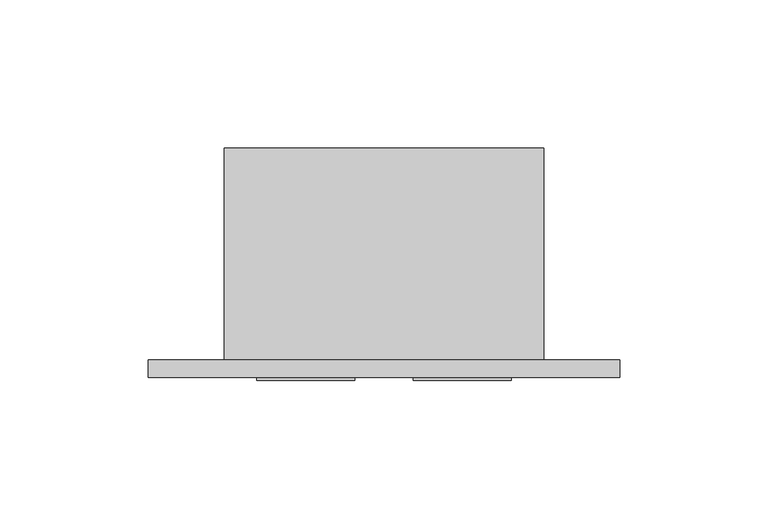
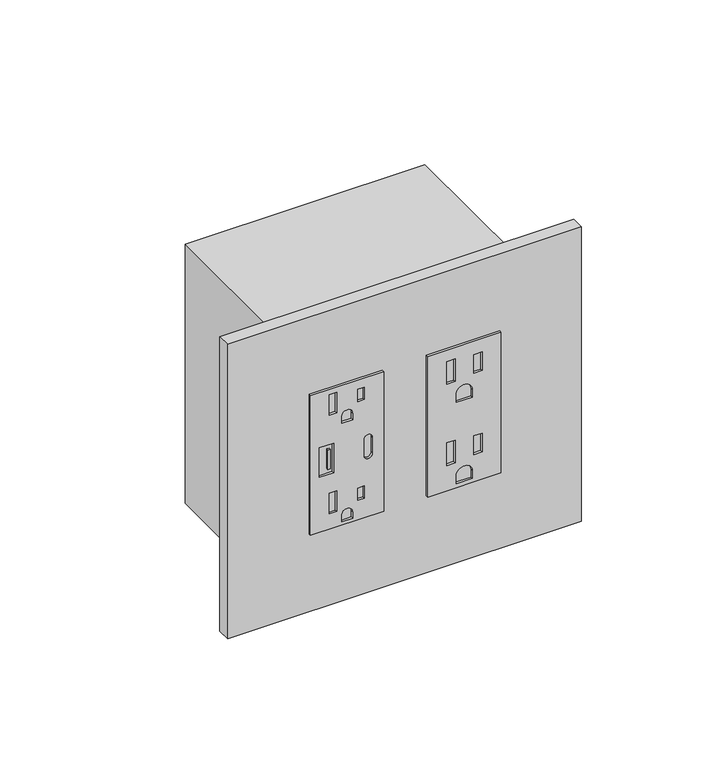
"""IFC4 building model written with IfcOpenShell, lengths in millimetres: proxy geometry, Electrical-Teknion-EPDMD_Vertical_Power_Data_Double-R2019 : PD Vertical Module - Double 15 Amp USB (A+C) & 15 Amp Standard."""

from ifc_helpers import new_model, si_unit, point, frame, frame_2d, origin, place, context, project, spatial, polyline, circle_curve, trimmed, segment, composite_curve, outline, extrude, source, transform, mapped, element, save


def electrical_fixtures_94c24c1b(model_context):
    return source(origin(), model_context, "Body", "SweptSolid", [
        extrude(outline(polyline([(490.5876229, 96.9264), (490.5876229, 63.9318), (423.6332229, 63.9318), (423.6332229, 96.9264), (490.5876229, 96.9264)]), holes=[polyline([(485.2028229, 76.2762), (474.3824229, 76.2762), (474.3824229, 72.4408), (485.2028229, 72.4408), (485.2028229, 76.2762)]), polyline([(484.2249229, 88.4428), (475.3603229, 88.4428), (475.3603229, 84.6074), (484.2249229, 84.6074), (484.2249229, 88.4428)]), composite_curve([segment(polyline([(464.1970229, 76.7969), (467.8292229, 76.7969)]), True, "CONTINUOUS"), segment(trimmed(circle_curve(frame_2d((467.8292229, 80.4291)), 3.6322), [point((467.8292229, 76.7969))], [point((467.8292229, 84.0613))], True, "CARTESIAN"), True, "CONTINUOUS"), segment(polyline([(467.8292229, 84.0613), (464.1970229, 84.0613), (464.1970229, 76.7969)]), True, "CONTINUOUS")], self_intersect=False), polyline([(446.4678229, 76.2762), (435.6474229, 76.2762), (435.6474229, 72.4408), (446.4678229, 72.4408), (446.4678229, 76.2762)]), polyline([(445.4899229, 88.4428), (436.6253229, 88.4428), (436.6253229, 84.6074), (445.4899229, 84.6074), (445.4899229, 88.4428)]), composite_curve([segment(polyline([(429.0942229, 84.0613), (425.4620229, 84.0613), (425.4620229, 76.7969), (429.0942229, 76.7969)]), True, "CONTINUOUS"), segment(trimmed(circle_curve(frame_2d((429.0942229, 80.4291)), 3.6322), [point((429.0942229, 76.7969))], [point((429.0942229, 84.0613))], True, "CARTESIAN"), True, "CONTINUOUS")], self_intersect=False)]), frame((0.0, -6.9294746, 0.0), z_axis=(0.0, 1.0, 0.0), x_axis=(0.0, 0.0, 1.0)), (0.0, 0.0, 1.0), 1.0366746),
        extrude(outline(polyline([(490.3844229, 44.0944), (490.3844229, 11.0998), (423.8364229, 11.0998), (423.8364229, 44.0944), (490.3844229, 44.0944)]), holes=[polyline([(487.9460229, 22.9616), (478.1184878, 22.9616), (478.1184878, 19.6342), (487.9460229, 19.6342), (487.9460229, 22.9616)]), polyline([(485.9405554, 35.41014), (480.1239554, 35.41014), (480.1239554, 32.4358), (485.9405554, 32.4358), (485.9405554, 35.41014)]), composite_curve([segment(polyline([(472.3504229, 30.0609), (472.3504229, 25.1333), (475.4492229, 25.1333)]), True, "CONTINUOUS"), segment(trimmed(circle_curve(frame_2d((475.4492229, 27.5971)), 2.4638), [point((475.4492229, 25.1333))], [point((475.4492229, 30.0609))], True, "CARTESIAN"), True, "CONTINUOUS"), segment(polyline([(475.4492229, 30.0609), (472.3504229, 30.0609)]), True, "CONTINUOUS")], self_intersect=False), polyline([(440.9560229, 22.9616), (431.1284878, 22.9616), (431.1284878, 19.6342), (440.9560229, 19.6342), (440.9560229, 22.9616)]), polyline([(438.9505554, 35.41014), (433.1339554, 35.41014), (433.1339554, 32.4358), (438.9505554, 32.4358), (438.9505554, 35.41014)]), composite_curve([segment(polyline([(425.3604229, 30.0609), (425.3604229, 25.1333), (428.4592229, 25.1333)]), True, "CONTINUOUS"), segment(trimmed(circle_curve(frame_2d((428.4592229, 27.5971)), 2.4638), [point((428.4592229, 25.1333))], [point((428.4592229, 30.0609))], True, "CARTESIAN"), True, "CONTINUOUS"), segment(polyline([(428.4592229, 30.0609), (425.3604229, 30.0609)]), True, "CONTINUOUS")], self_intersect=False), polyline([(464.1589229, 21.59), (450.0619229, 21.59), (450.0619229, 15.0876), (464.1589229, 15.0876), (464.1589229, 21.59)]), composite_curve([segment(trimmed(circle_curve(frame_2d((453.3258229, 37.1348)), 1.905), [point((453.3258229, 39.0398))], [point((453.3258229, 35.2298))], True, "CARTESIAN"), True, "CONTINUOUS"), segment(polyline([(453.3258229, 35.2298), (460.8950229, 35.2298)]), True, "CONTINUOUS"), segment(trimmed(circle_curve(frame_2d((460.8950229, 37.1348)), 1.905), [point((460.8950229, 35.2298))], [point((460.8950229, 39.0398))], True, "CARTESIAN"), True, "CONTINUOUS"), segment(polyline([(460.8950229, 39.0398), (453.3258229, 39.0398)]), True, "CONTINUOUS")], self_intersect=False)]), frame((0.0, -6.9294746, 0.0), z_axis=(0.0, 1.0, 0.0), x_axis=(0.0, 0.0, 1.0)), (0.0, 0.0, 1.0), 1.0366746),
        extrude(outline(polyline([(20.0803959, -6.9294746), (18.9613268, -6.9294746), (18.9613268, -5.8928), (20.0803959, -5.8928), (20.0803959, -6.9294746)])), frame((0.0, 0.0, 452.4102391), z_axis=(0.0, 0.0, 1.0), x_axis=(1.0, 0.0, 0.0)), (0.0, 0.0, 1.0), 9.2470447),
        extrude(outline(polyline([(-25.6794, 0.0), (133.7056, 0.0), (133.7056, -5.8928), (-25.6794, -5.8928), (-25.6794, 0.0)])), frame((0.0, 0.0, 386.9302229), z_axis=(0.0, 0.0, 1.0), x_axis=(1.0, 0.0, 0.0)), (0.0, 0.0, 1.0), 140.3604),
        extrude(outline(polyline([(108.0262, 0.0), (0.0, 0.0), (0.0, 71.7296), (108.0262, 71.7296), (108.0262, 0.0)])), frame((0.0, 0.0, 395.3630229), z_axis=(0.0, 0.0, 1.0), x_axis=(1.0, 0.0, 0.0)), (0.0, 0.0, 1.0), 123.4948),
    ])


if __name__ == "__main__":
    model = new_model("IFC4")
    model_context = context("Model", 3, world=origin())
    ifc_project = project(units=[si_unit("LENGTHUNIT", "METRE", prefix="MILLI")], contexts=[model_context])
    site = spatial("IfcSite", under=ifc_project)
    building = spatial("IfcBuilding", under=site)
    placement = place(None, origin())
    electrical_fixtures_shape = electrical_fixtures_94c24c1b(model_context)
    element("IfcBuildingElementProxy", 1, Name="Electrical-Teknion-EPDMD_Vertical_Power_Data_Double-R2019 : PD Vertical Module - Double 15 Amp USB (A+C) & 15 Amp Standard", ObjectType="Electrical-Teknion-EPDMD_Vertical_Power_Data_Double-R2019 : PD Vertical Module - Double 15 Amp USB (A+C) & 15 Amp Standard", at=placement, inside=building, context=model_context, shape_type="MappedRepresentation", body=[
        mapped(electrical_fixtures_shape, transform((0.0, 0.0, 0.0), x_axis=(1.0, 0.0, 0.0), y_axis=(0.0, 1.0, 0.0), z_axis=(0.0, 0.0, 1.0))),
    ])
    save(model, "model.ifc")
